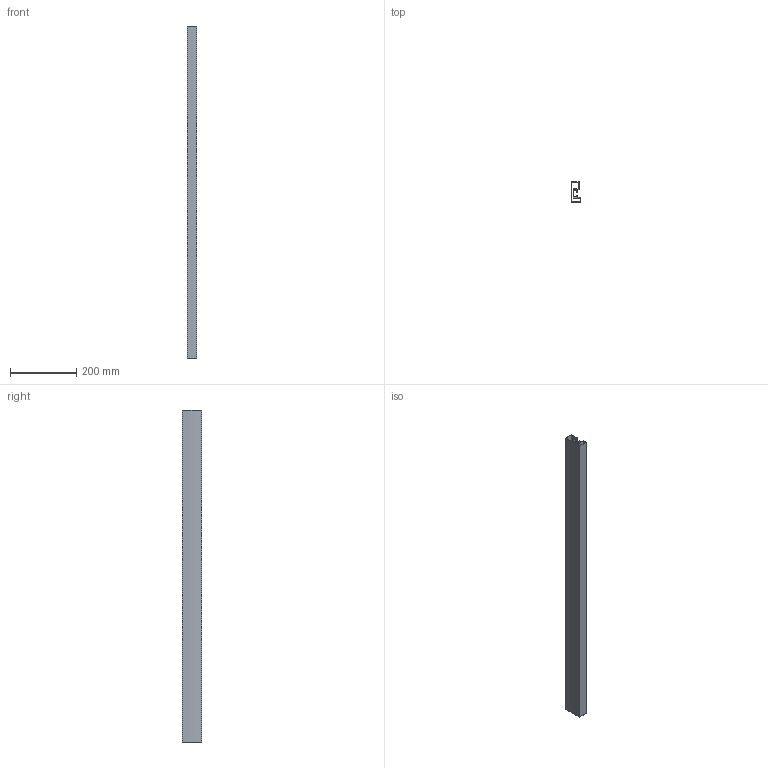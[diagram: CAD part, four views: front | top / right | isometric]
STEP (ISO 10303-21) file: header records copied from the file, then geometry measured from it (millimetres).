
FILE_DESCRIPTION (( 'STEP AP214' ), '1' );
FILE_NAME ('067RCB1PRS001_simplified.STEP', '2024-09-18T12:01:06', ( '' ), ( '' ), 'SwSTEP 2.0', 'SolidWorks 2023', '' );
FILE_SCHEMA (( 'AUTOMOTIVE_DESIGN' ));
Length unit declared in the file: millimetre
Products named in the file (1): 067RCB1PRS001_simplified
Bounding box: 29.89 x 60 x 1000 mm (x, y, z)
Volume: 473284.6 mm3; surface area: 428144.7 mm2
Topology: 1 solids, 1 shells, 30 faces, 84 edges, 56 vertices
Faces by surface type: plane 26, cylinder 4
Entity records: 983 total; most frequent: CARTESIAN_POINT 171, ORIENTED_EDGE 168, DIRECTION 154, EDGE_CURVE 84, LINE 76, VECTOR 76, VERTEX_POINT 56, AXIS2_PLACEMENT_3D 39
